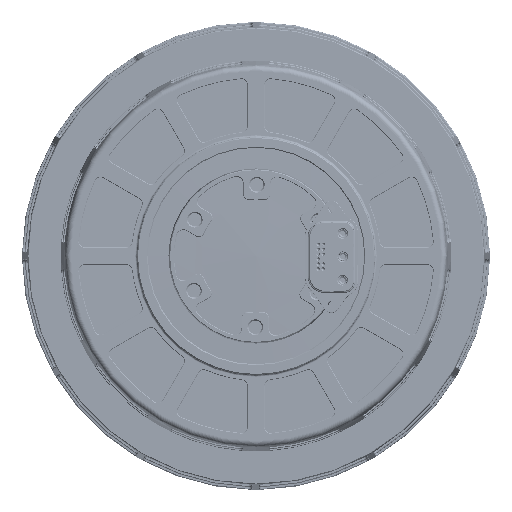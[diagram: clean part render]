
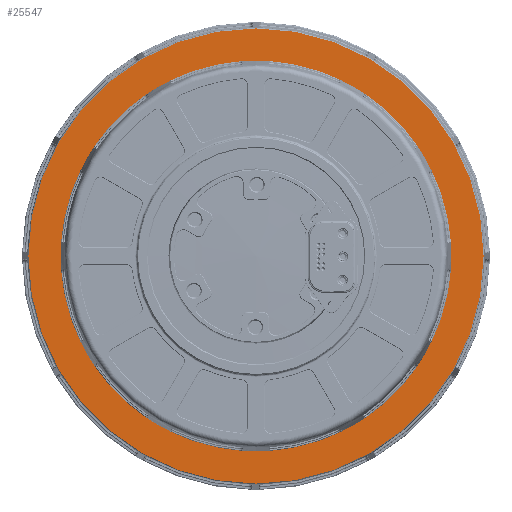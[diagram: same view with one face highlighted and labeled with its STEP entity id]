
A CAD part, front view. The second image highlights one B-rep face of the part: STEP entity #25547.
In plain terms, the highlighted planar face has unit normal (0, -1, 0).
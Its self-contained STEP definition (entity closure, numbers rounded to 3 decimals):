
#956 = FACE_BOUND ( 'NONE', #212234, .T. ) ;
#3477 = DIRECTION ( 'NONE',  ( 0., 0., 1. ) ) ;
#10834 = AXIS2_PLACEMENT_3D ( 'NONE', #278736, #45327, #90847 ) ;
#19646 = EDGE_CURVE ( 'NONE', #228373, #70496, #146451, .T. ) ;
#25547 = ADVANCED_FACE ( 'NONE', ( #956, #43413 ), #251099, .F. ) ;
#35563 = DIRECTION ( 'NONE',  ( 0., 0., 1. ) ) ;
#35584 = CIRCLE ( 'NONE', #166273, 100.1 ) ;
#35656 = DIRECTION ( 'NONE',  ( 0., 0., 1. ) ) ;
#37640 = CIRCLE ( 'NONE', #245823, 116.7 ) ;
#37938 = AXIS2_PLACEMENT_3D ( 'NONE', #131097, #38649, #35656 ) ;
#38649 = DIRECTION ( 'NONE',  ( 0., 1., 0. ) ) ;
#43413 = FACE_OUTER_BOUND ( 'NONE', #65050, .T. ) ;
#45327 = DIRECTION ( 'NONE',  ( 0., -1., 0. ) ) ;
#46408 = CARTESIAN_POINT ( 'NONE',  ( 130.749, 283.677, -22.444 ) ) ;
#52978 = CARTESIAN_POINT ( 'NONE',  ( 13.749, 283.677, 77.656 ) ) ;
#65050 = EDGE_LOOP ( 'NONE', ( #122234, #246966 ) ) ;
#69694 = CARTESIAN_POINT ( 'NONE',  ( 13.749, 283.677, -122.544 ) ) ;
#70152 = CARTESIAN_POINT ( 'NONE',  ( 13.749, 283.677, -22.444 ) ) ;
#70496 = VERTEX_POINT ( 'NONE', #102516 ) ;
#72776 = ORIENTED_EDGE ( 'NONE', *, *, #190737, .T. ) ;
#90847 = DIRECTION ( 'NONE',  ( 0., 0., 1. ) ) ;
#93399 = DIRECTION ( 'NONE',  ( 0., 1., 0. ) ) ;
#102516 = CARTESIAN_POINT ( 'NONE',  ( 13.749, 283.677, -139.144 ) ) ;
#113111 = DIRECTION ( 'NONE',  ( 0., 0., 1. ) ) ;
#118646 = DIRECTION ( 'NONE',  ( 0., -1., 0. ) ) ;
#120777 = CIRCLE ( 'NONE', #37938, 100.1 ) ;
#122234 = ORIENTED_EDGE ( 'NONE', *, *, #19646, .T. ) ;
#126390 = ORIENTED_EDGE ( 'NONE', *, *, #295747, .T. ) ;
#131097 = CARTESIAN_POINT ( 'NONE',  ( 13.749, 283.677, -22.444 ) ) ;
#146451 = CIRCLE ( 'NONE', #10834, 116.7 ) ;
#150758 = CARTESIAN_POINT ( 'NONE',  ( 13.749, 283.677, -22.444 ) ) ;
#166273 = AXIS2_PLACEMENT_3D ( 'NONE', #150758, #243238, #35563 ) ;
#187202 = AXIS2_PLACEMENT_3D ( 'NONE', #46408, #93399, #113111 ) ;
#190737 = EDGE_CURVE ( 'NONE', #195996, #213439, #120777, .T. ) ;
#195996 = VERTEX_POINT ( 'NONE', #52978 ) ;
#212234 = EDGE_LOOP ( 'NONE', ( #126390, #72776 ) ) ;
#213439 = VERTEX_POINT ( 'NONE', #69694 ) ;
#228373 = VERTEX_POINT ( 'NONE', #248105 ) ;
#243238 = DIRECTION ( 'NONE',  ( 0., 1., 0. ) ) ;
#245823 = AXIS2_PLACEMENT_3D ( 'NONE', #70152, #118646, #3477 ) ;
#246966 = ORIENTED_EDGE ( 'NONE', *, *, #254769, .T. ) ;
#248105 = CARTESIAN_POINT ( 'NONE',  ( 13.749, 283.677, 94.256 ) ) ;
#251099 = PLANE ( 'NONE',  #187202 ) ;
#254769 = EDGE_CURVE ( 'NONE', #70496, #228373, #37640, .T. ) ;
#278736 = CARTESIAN_POINT ( 'NONE',  ( 13.749, 283.677, -22.444 ) ) ;
#295747 = EDGE_CURVE ( 'NONE', #213439, #195996, #35584, .T. ) ;
